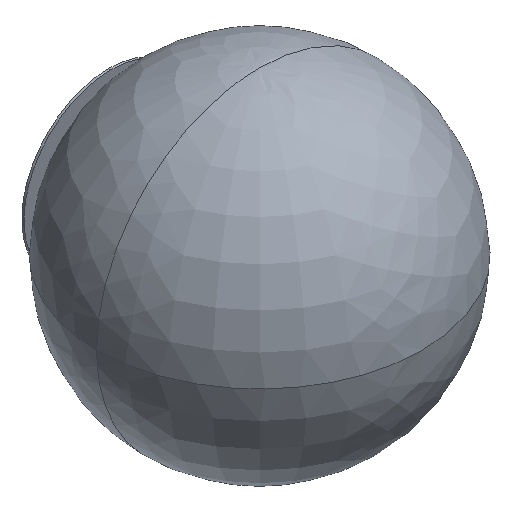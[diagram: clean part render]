
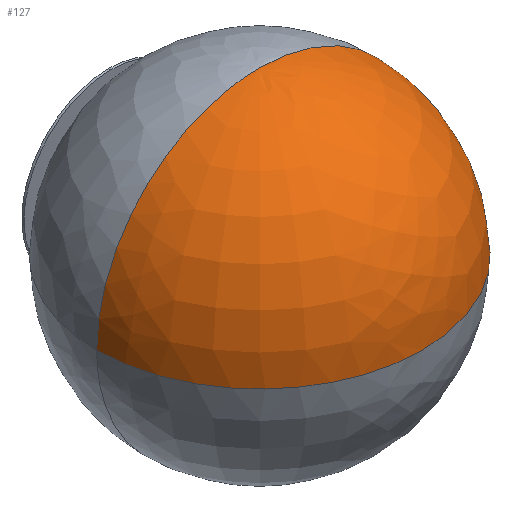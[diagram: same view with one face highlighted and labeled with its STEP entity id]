
A CAD part, isometric view. The second image highlights one B-rep face of the part: STEP entity #127.
In plain terms, the highlighted free-form (B-spline) face has degree [2, 2] with [5, 5] control points.
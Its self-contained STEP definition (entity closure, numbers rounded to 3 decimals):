
#127=ADVANCED_FACE('',(#215),#1315,.T.);
#215=FACE_OUTER_BOUND('',#321,.T.);
#321=EDGE_LOOP('',(#704,#705,#706,#707));
#704=ORIENTED_EDGE('',*,*,#910,.T.);
#705=ORIENTED_EDGE('',*,*,#911,.T.);
#706=ORIENTED_EDGE('',*,*,#895,.F.);
#707=ORIENTED_EDGE('',*,*,#898,.F.);
#895=EDGE_CURVE('',#1221,#1222,#1045,.T.);
#898=EDGE_CURVE('',#1225,#1221,#1048,.T.);
#910=EDGE_CURVE('',#1225,#1229,#1060,.T.);
#911=EDGE_CURVE('',#1229,#1222,#1061,.T.);
#1045=(
BOUNDED_CURVE()
B_SPLINE_CURVE(2,(#5123,#5124,#5125),.UNSPECIFIED.,.F.,.F.)
B_SPLINE_CURVE_WITH_KNOTS((3,3),(-235.619,-117.81),
 .UNSPECIFIED.)
CURVE()
GEOMETRIC_REPRESENTATION_ITEM()
RATIONAL_B_SPLINE_CURVE((1.,0.707,1.))
REPRESENTATION_ITEM('')
);
#1048=(
BOUNDED_CURVE()
B_SPLINE_CURVE(2,(#5132,#5133,#5134),.UNSPECIFIED.,.F.,.F.)
B_SPLINE_CURVE_WITH_KNOTS((3,3),(117.81,235.619),
 .UNSPECIFIED.)
CURVE()
GEOMETRIC_REPRESENTATION_ITEM()
RATIONAL_B_SPLINE_CURVE((1.,0.707,1.))
REPRESENTATION_ITEM('')
);
#1060=(
BOUNDED_CURVE()
B_SPLINE_CURVE(2,(#5174,#5175,#5176),.UNSPECIFIED.,.F.,.F.)
B_SPLINE_CURVE_WITH_KNOTS((3,3),(0.,150.),.UNSPECIFIED.)
CURVE()
GEOMETRIC_REPRESENTATION_ITEM()
RATIONAL_B_SPLINE_CURVE((1.,0.707,1.))
REPRESENTATION_ITEM('')
);
#1061=(
BOUNDED_CURVE()
B_SPLINE_CURVE(2,(#5177,#5178,#5179),.UNSPECIFIED.,.F.,.F.)
B_SPLINE_CURVE_WITH_KNOTS((3,3),(0.,150.),.UNSPECIFIED.)
CURVE()
GEOMETRIC_REPRESENTATION_ITEM()
RATIONAL_B_SPLINE_CURVE((1.,0.707,1.))
REPRESENTATION_ITEM('')
);
#1221=VERTEX_POINT('',#5087);
#1222=VERTEX_POINT('',#5088);
#1225=VERTEX_POINT('',#5091);
#1229=VERTEX_POINT('',#5095);
#1315=(
BOUNDED_SURFACE()
B_SPLINE_SURFACE(2,2,((#5003,#5004,#5005,#5006,#5007),(#5008,#5009,#5010,
#5011,#5012),(#5013,#5014,#5015,#5016,#5017),(#5018,#5019,#5020,#5021,#5022),
(#5023,#5024,#5025,#5026,#5027)),.UNSPECIFIED.,.F.,.F.,.F.)
B_SPLINE_SURFACE_WITH_KNOTS((3,2,3),(3,2,3),(235.619,353.429,
471.239),(0.,117.81,235.619),.UNSPECIFIED.)
GEOMETRIC_REPRESENTATION_ITEM()
RATIONAL_B_SPLINE_SURFACE(((1.,0.707,1.,0.707,1.),
(0.707,0.5,0.707,0.5,0.707),(1.,0.707,
1.,0.707,1.),(0.707,0.5,0.707,0.5,0.707),
(1.,0.707,1.,0.707,1.)))
REPRESENTATION_ITEM('')
SURFACE()
);
#5003=CARTESIAN_POINT('',(0.,-67.427,-75.));
#5004=CARTESIAN_POINT('',(-75.,-67.427,-75.));
#5005=CARTESIAN_POINT('',(-75.,-67.427,0.));
#5006=CARTESIAN_POINT('',(-75.,-67.427,75.));
#5007=CARTESIAN_POINT('',(0.,-67.427,75.));
#5008=CARTESIAN_POINT('',(0.,-67.427,-75.));
#5009=CARTESIAN_POINT('',(-75.,-142.427,-75.));
#5010=CARTESIAN_POINT('',(-75.,-142.427,0.));
#5011=CARTESIAN_POINT('',(-75.,-142.427,75.));
#5012=CARTESIAN_POINT('',(0.,-67.427,75.));
#5013=CARTESIAN_POINT('',(0.,-67.427,-75.));
#5014=CARTESIAN_POINT('',(0.,-142.427,-75.));
#5015=CARTESIAN_POINT('',(0.,-142.427,0.));
#5016=CARTESIAN_POINT('',(0.,-142.427,75.));
#5017=CARTESIAN_POINT('',(0.,-67.427,75.));
#5018=CARTESIAN_POINT('',(0.,-67.427,-75.));
#5019=CARTESIAN_POINT('',(75.,-142.427,-75.));
#5020=CARTESIAN_POINT('',(75.,-142.427,0.));
#5021=CARTESIAN_POINT('',(75.,-142.427,75.));
#5022=CARTESIAN_POINT('',(0.,-67.427,75.));
#5023=CARTESIAN_POINT('',(0.,-67.427,-75.));
#5024=CARTESIAN_POINT('',(75.,-67.427,-75.));
#5025=CARTESIAN_POINT('',(75.,-67.427,0.));
#5026=CARTESIAN_POINT('',(75.,-67.427,75.));
#5027=CARTESIAN_POINT('',(0.,-67.427,75.));
#5087=CARTESIAN_POINT('',(0.,-67.427,75.));
#5088=CARTESIAN_POINT('',(75.,-67.427,0.));
#5091=CARTESIAN_POINT('',(-75.,-67.427,0.));
#5095=CARTESIAN_POINT('',(0.,-142.427,0.));
#5123=CARTESIAN_POINT('',(0.,-67.427,75.));
#5124=CARTESIAN_POINT('',(75.,-67.427,75.));
#5125=CARTESIAN_POINT('',(75.,-67.427,0.));
#5132=CARTESIAN_POINT('',(-75.,-67.427,0.));
#5133=CARTESIAN_POINT('',(-75.,-67.427,75.));
#5134=CARTESIAN_POINT('',(0.,-67.427,75.));
#5174=CARTESIAN_POINT('',(-75.,-67.427,0.));
#5175=CARTESIAN_POINT('',(-75.,-142.427,0.));
#5176=CARTESIAN_POINT('',(0.,-142.427,0.));
#5177=CARTESIAN_POINT('',(0.,-142.427,0.));
#5178=CARTESIAN_POINT('',(75.,-142.427,0.));
#5179=CARTESIAN_POINT('',(75.,-67.427,0.));
